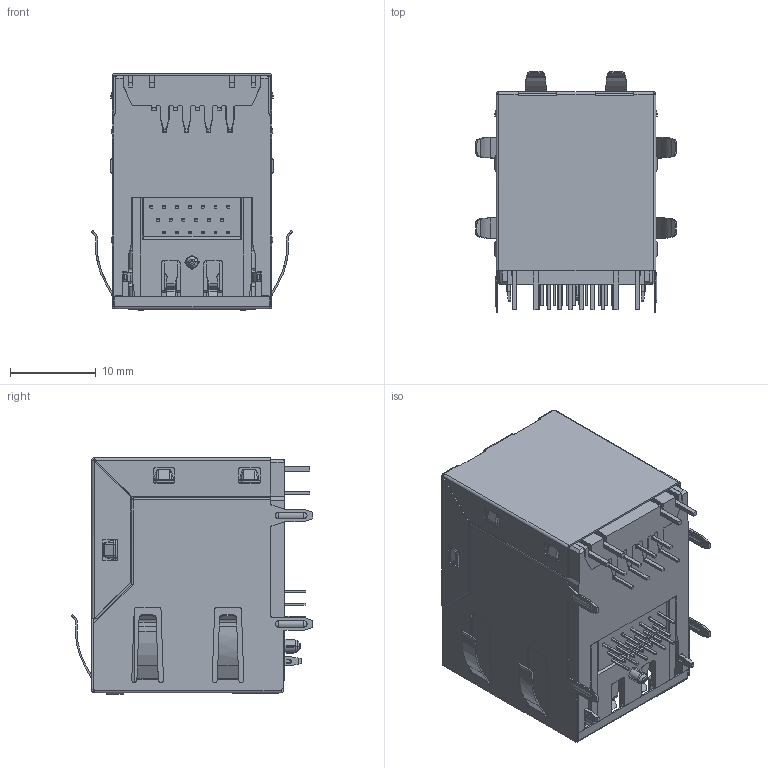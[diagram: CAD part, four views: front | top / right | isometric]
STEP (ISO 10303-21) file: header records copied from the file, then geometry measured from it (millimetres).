
FILE_DESCRIPTION (( 'STEP AP203' ), '1' );
FILE_NAME ('RJ45+HDMI ³ÉÆ·2025-5-28.STEP', '2025-05-29T08:32:22', ( '88' ), ( 'Microsoft' ), 'SwSTEP 2.0', 'SolidWorks 2020', '' );
FILE_SCHEMA (( 'CONFIG_CONTROL_DESIGN' ));
Products named in the file (5): HDMI-莉こ; 俋褲湍粟--ok; RJ45+HDMI  成品2025-5-28; 呿蝶翋极; 呿蝶綴裔腑殤
Assembly tree (4 placements, depth 2):
  RJ45+HDMI  成品2025-5-28
    呿蝶翋极
    呿蝶綴裔腑殤
    HDMI-莉こ
    俋褲湍粟--ok
Bounding box: 23.46 x 28.18 x 27.69 mm (x, y, z)
Volume: 5349.6 mm3; surface area: 14867.8 mm2
Topology: 13 solids, 13 shells, 5009 faces, 14534 edges, 9423 vertices
Faces by surface type: plane 3236, cylinder 1573, bspline 160, cone 30, sphere 8, torus 2
Entity records: 170807 total; most frequent: CARTESIAN_POINT 37176, ORIENTED_EDGE 29056, DIRECTION 26684, EDGE_CURVE 14528, LINE 10950, VECTOR 10950, VERTEX_POINT 9423, AXIS2_PLACEMENT_3D 7867
